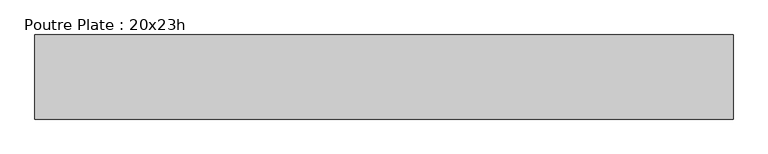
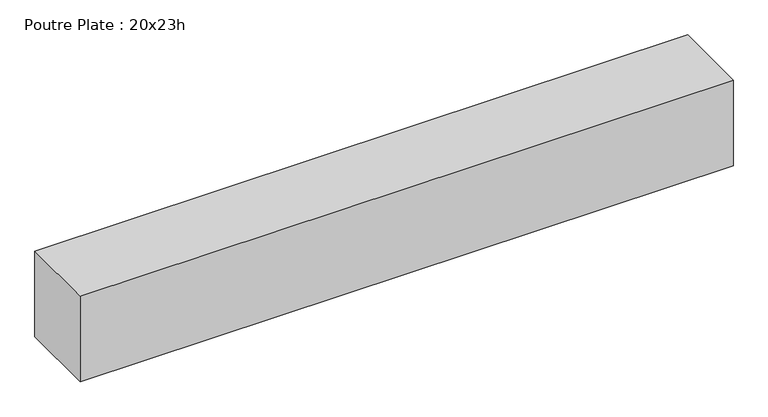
"""IFC4 building model written with IfcOpenShell, lengths in millimetres: beam geometry, Poutre Plate : 20x23h."""

import ifcopenshell
import ifcopenshell.guid

model = None  # the IFC model being written
_history = None  # IfcOwnerHistory: only IFC2X3 demands one
_inside = {}  # id of a spatial element -> (the spatial element, [elements in it])
_under = {}  # id of a project, library or spatial element -> (it, [spatial elements below it])
_declared = {}  # id of a project -> (the project, [libraries it declares])
_typed = {}  # id of a type object -> (the type object, [elements of that type])
_made_of = {}  # id of a material, layer set ... -> (it, [elements and type objects made of it])


def new_model(schema):
    """Start an empty IFC model of exactly this schema.

    Asked for "IFC4X3", IfcOpenShell would pick the latest addendum, in which some entities
    have other attributes; the version numbers below select the first issue.
    IFC2X3 requires an IfcOwnerHistory on every rooted entity: one is made here for all.
    """
    global model, _history
    if schema == "IFC4X3":
        model = ifcopenshell.file(schema_version=(4, 3, 0, 0))
    else:
        model = ifcopenshell.file(schema=schema)
    _inside.clear()
    _under.clear()
    _declared.clear()
    _typed.clear()
    _made_of.clear()
    _history = None
    if model.schema == "IFC2X3":
        org = make("IfcOrganization", Name="unknown")
        user = make(
            "IfcPersonAndOrganization",
            ThePerson=make("IfcPerson", FamilyName="unknown"),
            TheOrganization=org,
        )
        app = make(
            "IfcApplication",
            ApplicationDeveloper=org,
            Version="unknown",
            ApplicationFullName="unknown",
            ApplicationIdentifier="unknown",
        )
        _history = make(
            "IfcOwnerHistory",
            OwningUser=user,
            OwningApplication=app,
            ChangeAction="ADDED",
            CreationDate=0,
        )
    return model


def make(cls, **values):
    """One entity of the class cls with the attributes given. An attribute that is None is left unset."""
    return model.create_entity(
        cls, **{name: value for name, value in values.items() if value is not None}
    )


def rooted(cls, **values):
    """An entity with a GlobalId (a new one), such as an element, a storey or a relation."""
    return make(cls, GlobalId=ifcopenshell.guid.new(), OwnerHistory=_history, **values)


def si_unit(unit_type, name, prefix=None):
    """IfcSIUnit, for example si_unit("LENGTHUNIT", "METRE", prefix="MILLI")."""
    return make("IfcSIUnit", UnitType=unit_type, Prefix=prefix, Name=name)


def assignment(units):
    """IfcUnitAssignment: the units of a project."""
    return None if units is None else make("IfcUnitAssignment", Units=units)


def point(xyz):
    """IfcCartesianPoint."""
    return None if xyz is None else make("IfcCartesianPoint", Coordinates=xyz)


def direction(xyz):
    """IfcDirection."""
    return None if xyz is None else make("IfcDirection", DirectionRatios=xyz)


def frame(location, z_axis=None, x_axis=None):
    """IfcAxis2Placement3D, a coordinate frame: its origin and axes. An axis left out is left unset."""
    return make(
        "IfcAxis2Placement3D",
        Location=point(location),
        Axis=direction(z_axis),
        RefDirection=direction(x_axis),
    )


def origin():
    """The frame at (0, 0, 0) with its axes left unset."""
    return frame((0.0, 0.0, 0.0))


def place(relative_to, where):
    """IfcLocalPlacement: puts the frame where relative to a parent placement (None: the world)."""
    return make(
        "IfcLocalPlacement", PlacementRelTo=relative_to, RelativePlacement=where
    )


def context(
    kind, dimensions, precision=None, world=None, true_north=None, identifier=None
):
    """IfcGeometricRepresentationContext, for example the 3D "Model" context."""
    return make(
        "IfcGeometricRepresentationContext",
        ContextIdentifier=identifier,
        ContextType=kind,
        CoordinateSpaceDimension=dimensions,
        Precision=precision,
        WorldCoordinateSystem=world,
        TrueNorth=true_north,
    )


def project(units=None, contexts=None):
    """IfcProject with its units and contexts."""
    return rooted(
        "IfcProject",
        Name="project",
        RepresentationContexts=contexts,
        UnitsInContext=assignment(units),
    )


def spatial(cls, under=None, at=None, **own):
    """A site, building, storey or space (cls), placed at a placement, below another one or the project."""
    s = rooted(cls, ObjectPlacement=at, **own)
    if under is not None:
        _under.setdefault(under.id(), (under, []))[1].append(s)
    return s


def polyline(points):
    """IfcPolyline through the points."""
    return make("IfcPolyline", Points=[point(p) for p in points])


def outline(outer, holes=None, kind="AREA"):
    """IfcArbitraryClosedProfileDef: a profile drawn as a closed curve; with holes, ...WithVoids."""
    if holes is None:
        return make("IfcArbitraryClosedProfileDef", ProfileType=kind, OuterCurve=outer)
    return make(
        "IfcArbitraryProfileDefWithVoids",
        ProfileType=kind,
        OuterCurve=outer,
        InnerCurves=holes,
    )


def extrude(swept, where, along, depth):
    """IfcExtrudedAreaSolid: the profile swept, set in the frame where, extruded along a direction by depth."""
    return make(
        "IfcExtrudedAreaSolid",
        SweptArea=swept,
        Position=where,
        ExtrudedDirection=direction(along),
        Depth=depth,
    )


def shape(context_of_items, identifier, shape_type, items):
    """IfcShapeRepresentation: the items that make up one representation, for example the "Body"."""
    return make(
        "IfcShapeRepresentation",
        ContextOfItems=context_of_items,
        RepresentationIdentifier=identifier,
        RepresentationType=shape_type,
        Items=items,
    )


def source(mapping_origin, context_of_items, identifier, shape_type, items):
    """IfcRepresentationMap: a shape defined once, which mapped items show again and again."""
    return make(
        "IfcRepresentationMap",
        MappingOrigin=mapping_origin,
        MappedRepresentation=shape(context_of_items, identifier, shape_type, items),
    )


def transform(
    local_origin,
    x_axis=None,
    y_axis=None,
    z_axis=None,
    scale=None,
    scale2=None,
    scale3=None,
    uniform=True,
):
    """IfcCartesianTransformationOperator3D, or its non-uniform kind. x_axis, y_axis, z_axis: its Axis1, 2, 3."""
    if uniform:
        return make(
            "IfcCartesianTransformationOperator3D",
            Axis1=direction(x_axis),
            Axis2=direction(y_axis),
            LocalOrigin=point(local_origin),
            Scale=scale,
            Axis3=direction(z_axis),
        )
    return make(
        "IfcCartesianTransformationOperator3DnonUniform",
        Axis1=direction(x_axis),
        Axis2=direction(y_axis),
        LocalOrigin=point(local_origin),
        Scale=scale,
        Axis3=direction(z_axis),
        Scale2=scale2,
        Scale3=scale3,
    )


def mapped(mapping_source, mapping_target):
    """IfcMappedItem: shows the shape of a source again, moved by a transform."""
    return make(
        "IfcMappedItem", MappingSource=mapping_source, MappingTarget=mapping_target
    )


def made_of(thing, what):
    """Note that an element or type object is made of a material, layer set ...; save() writes the relation."""
    if what is not None:
        _made_of.setdefault(what.id(), (what, []))[1].append(thing)
    return thing


def element(
    cls,
    number,
    at=None,
    inside=None,
    cuts=None,
    type_object=None,
    material=None,
    context=None,
    identifier="Body",
    shape_type=None,
    held_by="IfcProductDefinitionShape",
    body=None,
    shapes=None,
    **own,
):
    """One element of the class cls, such as IfcWall. Its Tag is "e" and its number.

    at: its placement. inside: the storey or other place that contains it. cuts: it is an
    opening in that element (IfcRelVoidsElement). A single representation is given by context,
    identifier, shape_type and body (its items); several are given by shapes. held_by: the class
    of the entity that holds the representations. save() writes the other relations.
    """
    e = rooted(cls, Tag="e%d" % number, ObjectPlacement=at, **own)
    if body is not None:
        shapes = [shape(context, identifier, shape_type, body)]
    if shapes is not None:
        e.Representation = make(held_by, Representations=shapes)
    if inside is not None:
        _inside.setdefault(inside.id(), (inside, []))[1].append(e)
    if cuts is not None:
        rooted(
            "IfcRelVoidsElement", RelatingBuildingElement=cuts, RelatedOpeningElement=e
        )
    if type_object is not None:
        _typed.setdefault(type_object.id(), (type_object, []))[1].append(e)
    return made_of(e, material)


def aggregate(whole, parts):
    """IfcRelAggregates: a whole, such as a stair, and the parts it consists of."""
    return rooted("IfcRelAggregates", RelatingObject=whole, RelatedObjects=parts)


def save(model, path):
    """Write the relations noted so far, then the file.

    IfcRelAggregates (storeys below a building ...), IfcRelContainedInSpatialStructure (elements
    in a storey), IfcRelDefinesByType, IfcRelAssociatesMaterial and IfcRelDeclares: one each for
    every whole, place, type object, material and project.
    """
    for whole, parts in _under.values():
        aggregate(whole, parts)
    for where, things in _inside.values():
        rooted(
            "IfcRelContainedInSpatialStructure",
            RelatedElements=things,
            RelatingStructure=where,
        )
    for kind, things in _typed.values():
        rooted("IfcRelDefinesByType", RelatedObjects=things, RelatingType=kind)
    for what, things in _made_of.values():
        rooted("IfcRelAssociatesMaterial", RelatedObjects=things, RelatingMaterial=what)
    for by, libraries in _declared.values():
        rooted("IfcRelDeclares", RelatingContext=by, RelatedDefinitions=libraries)
    model.write(path)


def poutre_plate_20x23h_88e0bb5e(model_context):
    return source(origin(), model_context, "Body", "SweptSolid", [
        extrude(outline(polyline([(779.7, 100.0), (779.7, -100.0), (-880.0, -100.0), (-880.0, 100.0), (779.7, 100.0)])), frame((0.0, 0.0, -115.0), z_axis=(0.0, 0.0, 1.0), x_axis=(1.0, 0.0, 0.0)), (0.0, 0.0, 1.0), 230.0),
    ])


if __name__ == "__main__":
    model = new_model("IFC4")
    model_context = context("Model", 3, world=origin())
    ifc_project = project(units=[si_unit("LENGTHUNIT", "METRE", prefix="MILLI")], contexts=[model_context])
    site = spatial("IfcSite", under=ifc_project)
    building = spatial("IfcBuilding", under=site)
    placement = place(None, origin())
    poutre_plate_20x23h_shape = poutre_plate_20x23h_88e0bb5e(model_context)
    element("IfcBeam", 1, ObjectType="Poutre Plate : 20x23h", at=placement, inside=building, context=model_context, shape_type="MappedRepresentation", body=[
        mapped(poutre_plate_20x23h_shape, transform((0.0, 0.0, 0.0), x_axis=(1.0, 0.0, 0.0), y_axis=(0.0, 1.0, 0.0), z_axis=(0.0, 0.0, 1.0))),
    ])
    save(model, "model.ifc")
